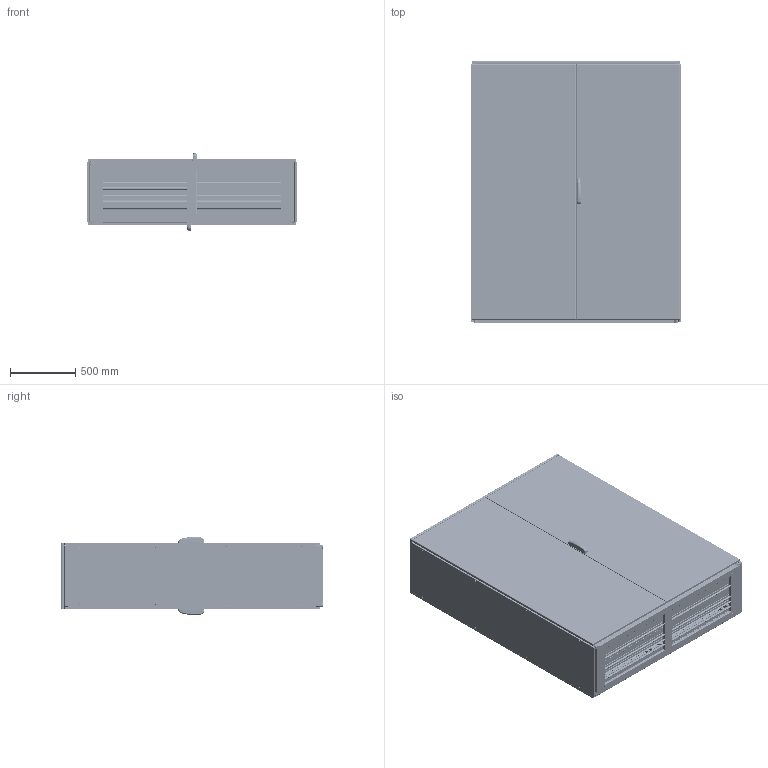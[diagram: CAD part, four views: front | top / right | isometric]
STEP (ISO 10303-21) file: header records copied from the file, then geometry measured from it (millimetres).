
FILE_DESCRIPTION (( 'STEP AP203' ), '1' );
FILE_NAME ('ENUX162005DP.STEP', '2025-06-03T07:07:01', ( '' ), ( '' ), 'SwSTEP 2.0', 'SolidWorks 2022', '' );
FILE_SCHEMA (( 'CONFIG_CONTROL_DESIGN' ));
Products named in the file (12): AR_ENUX_Tetto_1600x0500; AR_ENUX_Tegolino_1600x0050; AR_ENUX_Porta_CB_2.0_1600x2000_ANT_DX; AR_ENUX_nuova_maniglia_mesan; AR_ENUX_montaggio_porta_IB_2.0_1600x2000_POST_DX; AR_ENUX_Porta_IB_2.0_1600x2000_POST; AR_ENUX_Fianco_0500x2000_DX; AR_ENUX_Porta_CB_2.0_1600x2000_POST_DX; ENUX162005DP; AR_ENUX_Fianco_0500x2000_SX; AR_ENUX_Tegolino_1600x0100; AR_ENUX_Struttura_1600x2000x0500
Assembly tree (18 placements, depth 3):
  ENUX162005DP
    AR_ENUX_Struttura_1600x2000x0500
    AR_ENUX_Fianco_0500x2000_SX
    AR_ENUX_Fianco_0500x2000_DX
    AR_ENUX_Tetto_1600x0500
    AR_ENUX_Tegolino_1600x0100  x6
    AR_ENUX_Tegolino_1600x0050  x2
    AR_ENUX_montaggio_porta_IB_2.0_1600x2000_POST_DX  x2
      AR_ENUX_Porta_IB_2.0_1600x2000_POST
      AR_ENUX_nuova_maniglia_mesan
    AR_ENUX_Porta_CB_2.0_1600x2000_ANT_DX
    AR_ENUX_Porta_CB_2.0_1600x2000_POST_DX
Bounding box: 1612 x 2008.5 x 600 mm (x, y, z)
Volume: 25800220.6 mm3; surface area: 30558496.9 mm2
Topology: 18 solids, 19 shells, 12847 faces, 36740 edges, 23860 vertices
Faces by surface type: plane 6781, cylinder 5203, bspline 390, torus 263, cone 132, sphere 78
Entity records: 428654 total; most frequent: CARTESIAN_POINT 108139, ORIENTED_EDGE 66348, DIRECTION 63944, EDGE_CURVE 33174, VECTOR 22676, LINE 22676, VERTEX_POINT 21710, AXIS2_PLACEMENT_3D 20634
